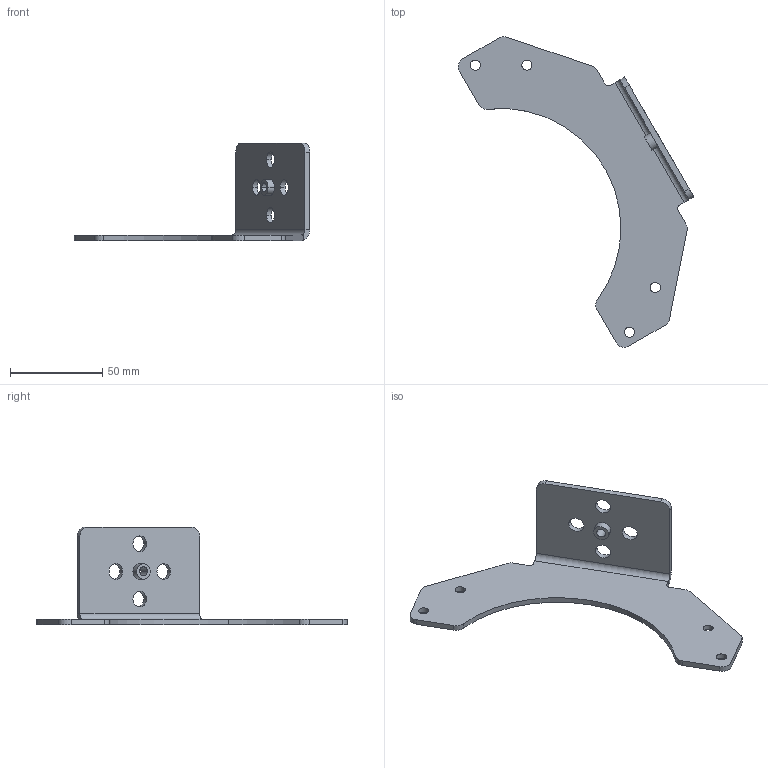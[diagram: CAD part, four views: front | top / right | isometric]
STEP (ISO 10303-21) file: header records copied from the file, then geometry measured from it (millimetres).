
FILE_DESCRIPTION (( 'STEP AP214' ), '1' );
FILE_NAME ('006006-A.STEP', '2013-03-08T15:36:52', ( ' ' ), ( '' ), 'SwSTEP 2.0', 'SolidWorks 2009', '' );
FILE_SCHEMA (( 'AUTOMOTIVE_DESIGN' ));
Length unit declared in the file: millimetre
Products named in the file (1): 006006-A
Bounding box: 127.74 x 168.59 x 53 mm (x, y, z)
Volume: 32105.6 mm3; surface area: 23811 mm2
Topology: 1 solids, 1 shells, 57 faces, 154 edges, 100 vertices
Faces by surface type: cylinder 37, plane 20
Entity records: 1877 total; most frequent: DIRECTION 344, CARTESIAN_POINT 312, ORIENTED_EDGE 308, EDGE_CURVE 154, AXIS2_PLACEMENT_3D 132, VERTEX_POINT 100, VECTOR 80, LINE 80
